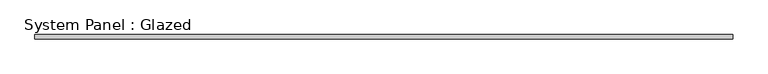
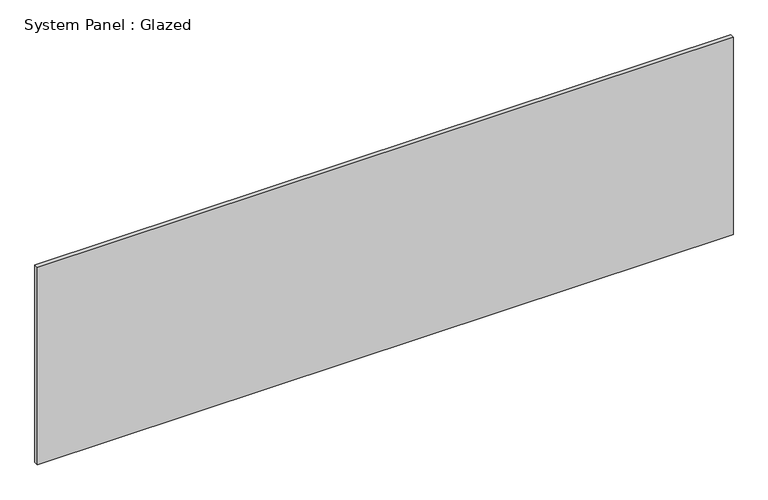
"""IFC4 building model written with IfcOpenShell, lengths in millimetres: plate geometry, System Panel : Glazed."""

from ifc_helpers import new_model, si_unit, origin, origin_with_axes, place, context, project, spatial, polyline, outline, extrude, source, transform, mapped, element, save


def system_panel_glazed_d6eabcf1(model_context):
    return source(origin(), model_context, "Body", "SweptSolid", [
        extrude(outline(polyline([(2000.0, 24.5), (-2000.0, 24.5), (-2000.0, 49.5), (2000.0, 49.5), (2000.0, 24.5)])), origin_with_axes(), (0.0, 0.0, 1.0), 1200.0),
    ])


if __name__ == "__main__":
    model = new_model("IFC4")
    model_context = context("Model", 3, world=origin())
    ifc_project = project(units=[si_unit("LENGTHUNIT", "METRE", prefix="MILLI")], contexts=[model_context])
    site = spatial("IfcSite", under=ifc_project)
    building = spatial("IfcBuilding", under=site)
    placement = place(None, origin())
    system_panel_glazed_shape = system_panel_glazed_d6eabcf1(model_context)
    element("IfcPlate", 1, ObjectType="System Panel : Glazed", at=placement, inside=building, context=model_context, shape_type="MappedRepresentation", body=[
        mapped(system_panel_glazed_shape, transform((0.0, 0.0, 0.0), x_axis=(1.0, 0.0, 0.0), y_axis=(0.0, 1.0, 0.0), z_axis=(0.0, 0.0, 1.0))),
    ])
    save(model, "model.ifc")
